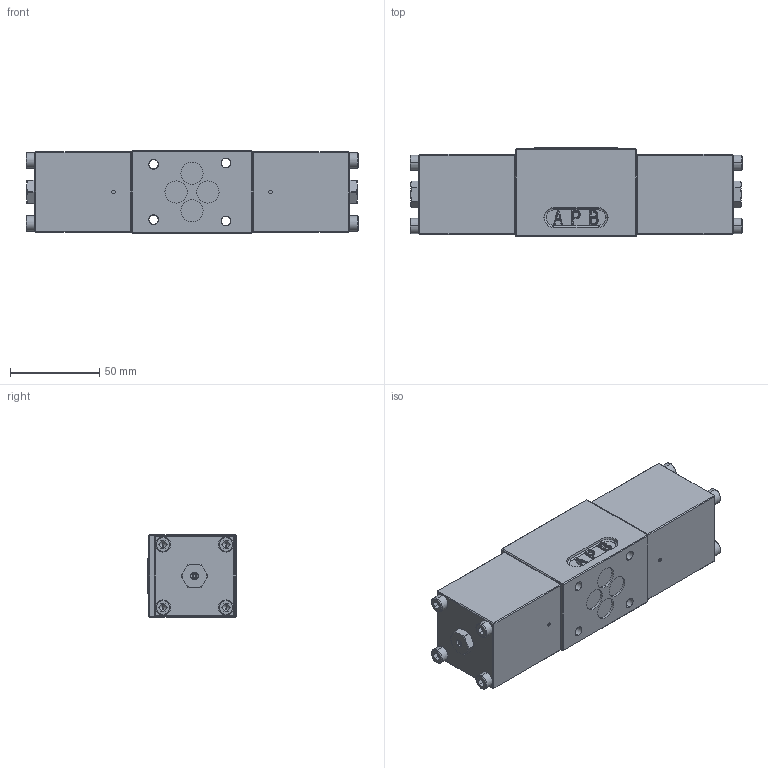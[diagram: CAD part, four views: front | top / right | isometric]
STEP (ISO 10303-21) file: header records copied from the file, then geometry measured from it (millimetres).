
FILE_DESCRIPTION (( 'STEP AP214' ), '1' );
FILE_NAME ('WDLFA06-4_3.STEP', '2021-09-23T13:35:28', ( '' ), ( '' ), 'SwSTEP 2.0', 'SolidWorks 2020', '' );
FILE_SCHEMA (( 'AUTOMOTIVE_DESIGN' ));
Length unit declared in the file: millimetre
Products named in the file (1): WDLFA06-4_3
Bounding box: 186 x 49.8 x 46 mm (x, y, z)
Volume: 366667.6 mm3; surface area: 43801.2 mm2
Topology: 1 solids, 5 shells, 632 faces, 1469 edges, 873 vertices
Faces by surface type: plane 294, cylinder 186, cone 54, torus 44, bspline 36, sphere 18
Entity records: 26144 total; most frequent: CARTESIAN_POINT 5129, DIRECTION 3037, ORIENTED_EDGE 2872, EDGE_CURVE 1436, AXIS2_PLACEMENT_3D 1124, VERTEX_POINT 873, LINE 789, VECTOR 789
